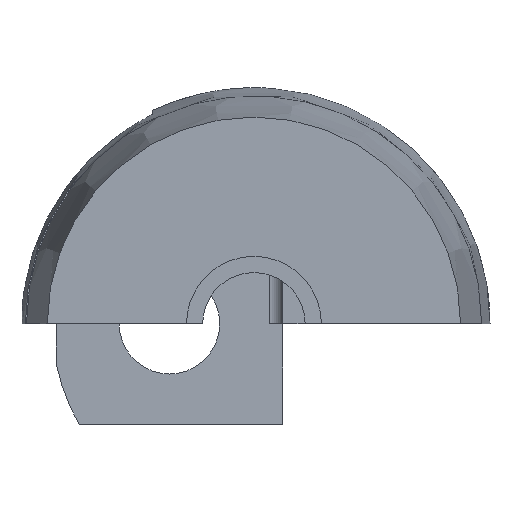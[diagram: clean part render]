
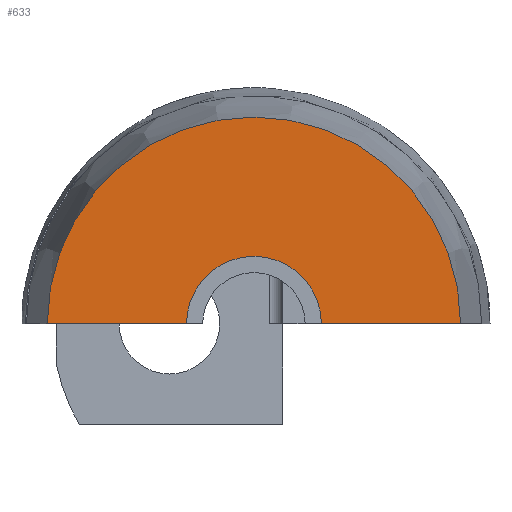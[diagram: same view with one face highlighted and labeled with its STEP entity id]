
A CAD part, front view. The second image highlights one B-rep face of the part: STEP entity #633.
In plain terms, the highlighted planar face has unit normal (0, -1, 0).
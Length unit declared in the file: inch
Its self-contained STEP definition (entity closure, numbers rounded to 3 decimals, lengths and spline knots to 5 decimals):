
#211=CARTESIAN_POINT('',(-0.22179,-3.235,-0.415));
#212=VERTEX_POINT('',#211);
#219=CARTESIAN_POINT('',(-0.73787,-3.235,-0.415));
#220=VERTEX_POINT('',#219);
#221=CARTESIAN_POINT('',(-0.22179,-3.235,-0.415));
#222=DIRECTION('',(-1.0,0.0,0.0));
#223=VECTOR('',#222,0.51607);
#224=LINE('',#221,#223);
#225=EDGE_CURVE('',#212,#220,#224,.T.);
#397=CARTESIAN_POINT('',(0.79428,-3.235,-0.415));
#398=VERTEX_POINT('',#397);
#405=CARTESIAN_POINT('',(0.27821,-3.235,-0.415));
#406=VERTEX_POINT('',#405);
#407=CARTESIAN_POINT('',(0.79428,-3.235,-0.415));
#408=DIRECTION('',(-1.0,0.0,0.0));
#409=VECTOR('',#408,0.51607);
#410=LINE('',#407,#409);
#411=EDGE_CURVE('',#398,#406,#410,.T.);
#586=CARTESIAN_POINT('',(0.02821,-3.235,-0.415));
#587=DIRECTION('',(0.0,1.0,0.0));
#588=DIRECTION('',(-1.0,0.0,0.0));
#589=AXIS2_PLACEMENT_3D('',#586,#587,#588);
#590=CIRCLE('',#589,0.25);
#591=EDGE_CURVE('',#212,#406,#590,.T.);
#603=CARTESIAN_POINT('',(0.02821,-3.235,-0.415));
#604=DIRECTION('',(0.0,1.0,0.0));
#605=DIRECTION('',(1.0,0.0,0.0));
#606=AXIS2_PLACEMENT_3D('',#603,#604,#605);
#607=CIRCLE('',#606,0.76607);
#608=EDGE_CURVE('',#220,#398,#607,.T.);
#622=CARTESIAN_POINT('',(0.02821,-3.235,-0.01956));
#623=DIRECTION('',(0.0,1.0,0.0));
#624=DIRECTION('',(0.0,0.0,1.0));
#625=AXIS2_PLACEMENT_3D('',#622,#623,#624);
#626=PLANE('',#625);
#627=ORIENTED_EDGE('',*,*,#591,.T.);
#628=ORIENTED_EDGE('',*,*,#411,.F.);
#629=ORIENTED_EDGE('',*,*,#608,.F.);
#630=ORIENTED_EDGE('',*,*,#225,.F.);
#631=EDGE_LOOP('',(#627,#628,#629,#630));
#632=FACE_OUTER_BOUND('',#631,.T.);
#633=ADVANCED_FACE('',(#632),#626,.F.);
